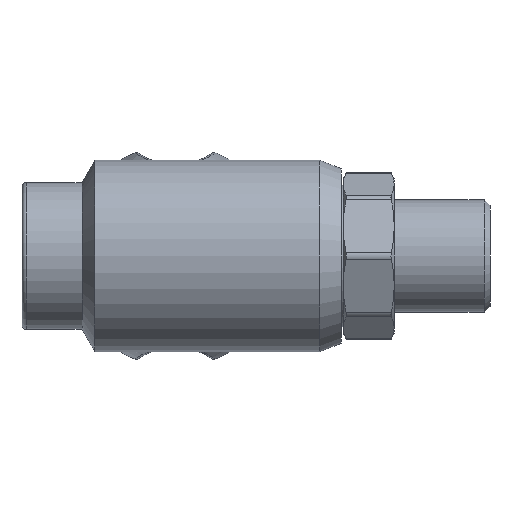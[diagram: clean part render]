
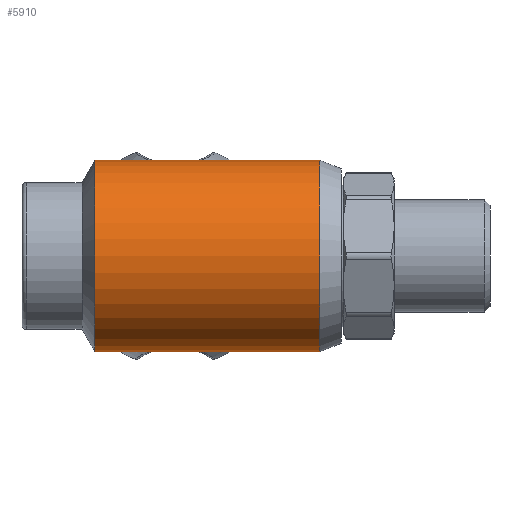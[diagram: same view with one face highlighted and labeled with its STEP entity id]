
A CAD part, front view. The second image highlights one B-rep face of the part: STEP entity #5910.
In plain terms, the highlighted cylindrical face has radius 22.5 mm (diameter 45 mm), a full revolution.
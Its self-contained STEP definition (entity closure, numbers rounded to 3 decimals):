
#172=B_SPLINE_CURVE_WITH_KNOTS('',3,(#11476,#11477,#11478,#11479,#11480,
#11481,#11482,#11483,#11484,#11485,#11486,#11487,#11488,#11489,#11490,#11491,
#11492,#11493),.UNSPECIFIED.,.F.,.F.,(4,2,2,2,2,2,2,2,4),(0.,0.349,
0.699,1.048,1.397,1.738,2.08,
2.421,2.762),.UNSPECIFIED.);
#173=B_SPLINE_CURVE_WITH_KNOTS('',3,(#11495,#11496,#11497,#11498,#11499,
#11500,#11501,#11502,#11503,#11504,#11505,#11506,#11507,#11508,#11509,#11510,
#11511,#11512),.UNSPECIFIED.,.F.,.F.,(4,2,2,2,2,2,2,2,4),(8.285,
8.626,8.967,9.308,9.649,9.998,
10.347,10.697,11.046),.UNSPECIFIED.);
#174=B_SPLINE_CURVE_WITH_KNOTS('',3,(#11513,#11514,#11515,#11516,#11517,
#11518,#11519,#11520,#11521,#11522,#11523,#11524,#11525,#11526,#11527,#11528,
#11529,#11530,#11531,#11532,#11533,#11534,#11535,#11536,#11537,#11538,#11539,
#11540,#11541,#11542,#11543,#11544,#11545,#11546),.UNSPECIFIED.,.F.,.F.,
(4,2,2,2,2,2,2,2,2,2,2,2,2,2,2,2,4),(2.762,3.103,3.444,
3.785,4.126,4.475,4.824,5.174,
5.523,5.872,6.222,6.571,6.921,
7.262,7.603,7.944,8.285),
 .UNSPECIFIED.);
#725=LINE('',#11801,#1198);
#726=LINE('',#11803,#1199);
#1198=VECTOR('',#7948,22.5);
#1199=VECTOR('',#7949,22.5);
#1264=CYLINDRICAL_SURFACE('',#6446,22.5);
#1585=FACE_OUTER_BOUND('',#1948,.T.);
#1948=EDGE_LOOP('',(#5287,#5288,#5289,#5290,#5291,#5292,#5293,#5294,#5295,
#5296,#5297));
#2191=CIRCLE('',#6444,22.5);
#2192=CIRCLE('',#6445,22.5);
#2193=CIRCLE('',#6447,22.5);
#2194=CIRCLE('',#6448,22.5);
#2721=VERTEX_POINT('',#11473);
#2722=VERTEX_POINT('',#11475);
#2723=VERTEX_POINT('',#11494);
#2783=VERTEX_POINT('',#11795);
#2784=VERTEX_POINT('',#11797);
#2785=VERTEX_POINT('',#11802);
#2786=VERTEX_POINT('',#11804);
#3543=EDGE_CURVE('',#2722,#2721,#172,.T.);
#3544=EDGE_CURVE('',#2723,#2722,#173,.T.);
#3545=EDGE_CURVE('',#2721,#2723,#174,.T.);
#3633=EDGE_CURVE('',#2783,#2784,#2191,.T.);
#3634=EDGE_CURVE('',#2784,#2783,#2192,.T.);
#3635=EDGE_CURVE('',#2783,#2723,#725,.T.);
#3636=EDGE_CURVE('',#2721,#2785,#726,.T.);
#3637=EDGE_CURVE('',#2785,#2786,#2193,.T.);
#3638=EDGE_CURVE('',#2786,#2785,#2194,.T.);
#5287=ORIENTED_EDGE('',*,*,#3634,.F.);
#5288=ORIENTED_EDGE('',*,*,#3633,.F.);
#5289=ORIENTED_EDGE('',*,*,#3635,.T.);
#5290=ORIENTED_EDGE('',*,*,#3544,.T.);
#5291=ORIENTED_EDGE('',*,*,#3543,.T.);
#5292=ORIENTED_EDGE('',*,*,#3636,.T.);
#5293=ORIENTED_EDGE('',*,*,#3637,.T.);
#5294=ORIENTED_EDGE('',*,*,#3638,.T.);
#5295=ORIENTED_EDGE('',*,*,#3636,.F.);
#5296=ORIENTED_EDGE('',*,*,#3545,.T.);
#5297=ORIENTED_EDGE('',*,*,#3635,.F.);
#5910=ADVANCED_FACE('',(#1585),#1264,.T.);
#6444=AXIS2_PLACEMENT_3D('',#11798,#7942,#7943);
#6445=AXIS2_PLACEMENT_3D('',#11799,#7944,#7945);
#6446=AXIS2_PLACEMENT_3D('',#11800,#7946,#7947);
#6447=AXIS2_PLACEMENT_3D('',#11805,#7950,#7951);
#6448=AXIS2_PLACEMENT_3D('',#11806,#7952,#7953);
#7942=DIRECTION('center_axis',(-1.,0.,0.));
#7943=DIRECTION('ref_axis',(0.,0.,1.));
#7944=DIRECTION('center_axis',(-1.,0.,0.));
#7945=DIRECTION('ref_axis',(0.,0.,1.));
#7946=DIRECTION('center_axis',(-1.,0.,0.));
#7947=DIRECTION('ref_axis',(0.,-1.,0.));
#7948=DIRECTION('',(1.,0.,0.));
#7949=DIRECTION('',(1.,0.,0.));
#7950=DIRECTION('center_axis',(-1.,0.,0.));
#7951=DIRECTION('ref_axis',(0.,0.,1.));
#7952=DIRECTION('center_axis',(-1.,0.,0.));
#7953=DIRECTION('ref_axis',(0.,0.,1.));
#11473=CARTESIAN_POINT('',(17.25,22.5,0.));
#11475=CARTESIAN_POINT('',(0.,14.446,-17.25));
#11476=CARTESIAN_POINT('Ctrl Pts',(0.,14.446,
-17.25));
#11477=CARTESIAN_POINT('Ctrl Pts',(1.165,14.446,-17.25));
#11478=CARTESIAN_POINT('Ctrl Pts',(2.329,14.591,-17.131));
#11479=CARTESIAN_POINT('Ctrl Pts',(4.594,15.119,-16.667));
#11480=CARTESIAN_POINT('Ctrl Pts',(5.695,15.499,-16.322));
#11481=CARTESIAN_POINT('Ctrl Pts',(7.784,16.382,-15.436));
#11482=CARTESIAN_POINT('Ctrl Pts',(8.775,16.885,-14.893));
#11483=CARTESIAN_POINT('Ctrl Pts',(10.607,17.906,-13.649));
#11484=CARTESIAN_POINT('Ctrl Pts',(11.448,18.424,-12.947));
#11485=CARTESIAN_POINT('Ctrl Pts',(12.929,19.379,-11.466));
#11486=CARTESIAN_POINT('Ctrl Pts',(13.627,19.854,-10.635));
#11487=CARTESIAN_POINT('Ctrl Pts',(14.875,20.731,-8.804));
#11488=CARTESIAN_POINT('Ctrl Pts',(15.426,21.132,-7.804));
#11489=CARTESIAN_POINT('Ctrl Pts',(16.325,21.797,-5.69));
#11490=CARTESIAN_POINT('Ctrl Pts',(16.673,22.06,-4.573));
#11491=CARTESIAN_POINT('Ctrl Pts',(17.136,22.412,-2.297));
#11492=CARTESIAN_POINT('Ctrl Pts',(17.25,22.5,-1.137));
#11493=CARTESIAN_POINT('Ctrl Pts',(17.25,22.5,0.));
#11494=CARTESIAN_POINT('',(-17.25,22.5,0.));
#11495=CARTESIAN_POINT('Ctrl Pts',(-17.25,22.5,0.));
#11496=CARTESIAN_POINT('Ctrl Pts',(-17.25,22.5,-1.137));
#11497=CARTESIAN_POINT('Ctrl Pts',(-17.136,22.412,-2.297));
#11498=CARTESIAN_POINT('Ctrl Pts',(-16.673,22.06,-4.573));
#11499=CARTESIAN_POINT('Ctrl Pts',(-16.325,21.797,-5.69));
#11500=CARTESIAN_POINT('Ctrl Pts',(-15.426,21.132,-7.804));
#11501=CARTESIAN_POINT('Ctrl Pts',(-14.875,20.731,-8.804));
#11502=CARTESIAN_POINT('Ctrl Pts',(-13.627,19.854,-10.635));
#11503=CARTESIAN_POINT('Ctrl Pts',(-12.929,19.379,-11.466));
#11504=CARTESIAN_POINT('Ctrl Pts',(-11.448,18.424,-12.947));
#11505=CARTESIAN_POINT('Ctrl Pts',(-10.607,17.906,-13.649));
#11506=CARTESIAN_POINT('Ctrl Pts',(-8.775,16.885,-14.893));
#11507=CARTESIAN_POINT('Ctrl Pts',(-7.784,16.382,-15.436));
#11508=CARTESIAN_POINT('Ctrl Pts',(-5.695,15.499,-16.322));
#11509=CARTESIAN_POINT('Ctrl Pts',(-4.594,15.119,-16.667));
#11510=CARTESIAN_POINT('Ctrl Pts',(-2.329,14.591,-17.131));
#11511=CARTESIAN_POINT('Ctrl Pts',(-1.165,14.446,-17.25));
#11512=CARTESIAN_POINT('Ctrl Pts',(0.,14.446,
-17.25));
#11513=CARTESIAN_POINT('Ctrl Pts',(17.25,22.5,0.));
#11514=CARTESIAN_POINT('Ctrl Pts',(17.25,22.5,1.137));
#11515=CARTESIAN_POINT('Ctrl Pts',(17.136,22.412,2.297));
#11516=CARTESIAN_POINT('Ctrl Pts',(16.673,22.06,4.573));
#11517=CARTESIAN_POINT('Ctrl Pts',(16.325,21.797,5.69));
#11518=CARTESIAN_POINT('Ctrl Pts',(15.426,21.132,7.804));
#11519=CARTESIAN_POINT('Ctrl Pts',(14.875,20.731,8.804));
#11520=CARTESIAN_POINT('Ctrl Pts',(13.627,19.854,10.635));
#11521=CARTESIAN_POINT('Ctrl Pts',(12.929,19.379,11.466));
#11522=CARTESIAN_POINT('Ctrl Pts',(11.448,18.424,12.947));
#11523=CARTESIAN_POINT('Ctrl Pts',(10.607,17.906,13.649));
#11524=CARTESIAN_POINT('Ctrl Pts',(8.775,16.885,14.893));
#11525=CARTESIAN_POINT('Ctrl Pts',(7.784,16.382,15.436));
#11526=CARTESIAN_POINT('Ctrl Pts',(5.695,15.499,16.322));
#11527=CARTESIAN_POINT('Ctrl Pts',(4.594,15.119,16.667));
#11528=CARTESIAN_POINT('Ctrl Pts',(2.329,14.591,17.131));
#11529=CARTESIAN_POINT('Ctrl Pts',(1.165,14.446,17.25));
#11530=CARTESIAN_POINT('Ctrl Pts',(-1.165,14.446,17.25));
#11531=CARTESIAN_POINT('Ctrl Pts',(-2.329,14.591,17.131));
#11532=CARTESIAN_POINT('Ctrl Pts',(-4.594,15.119,16.667));
#11533=CARTESIAN_POINT('Ctrl Pts',(-5.695,15.499,16.322));
#11534=CARTESIAN_POINT('Ctrl Pts',(-7.784,16.382,15.436));
#11535=CARTESIAN_POINT('Ctrl Pts',(-8.775,16.885,14.893));
#11536=CARTESIAN_POINT('Ctrl Pts',(-10.607,17.906,13.649));
#11537=CARTESIAN_POINT('Ctrl Pts',(-11.448,18.424,12.947));
#11538=CARTESIAN_POINT('Ctrl Pts',(-12.929,19.379,11.466));
#11539=CARTESIAN_POINT('Ctrl Pts',(-13.627,19.854,10.635));
#11540=CARTESIAN_POINT('Ctrl Pts',(-14.875,20.731,8.804));
#11541=CARTESIAN_POINT('Ctrl Pts',(-15.426,21.132,7.804));
#11542=CARTESIAN_POINT('Ctrl Pts',(-16.325,21.797,5.69));
#11543=CARTESIAN_POINT('Ctrl Pts',(-16.673,22.06,4.573));
#11544=CARTESIAN_POINT('Ctrl Pts',(-17.136,22.412,2.297));
#11545=CARTESIAN_POINT('Ctrl Pts',(-17.25,22.5,1.137));
#11546=CARTESIAN_POINT('Ctrl Pts',(-17.25,22.5,0.));
#11795=CARTESIAN_POINT('',(-18.844,22.5,0.));
#11797=CARTESIAN_POINT('',(-18.844,-22.5,0.));
#11798=CARTESIAN_POINT('Origin',(-18.844,0.,0.));
#11799=CARTESIAN_POINT('Origin',(-18.844,0.,0.));
#11800=CARTESIAN_POINT('Origin',(7.578,0.,0.));
#11801=CARTESIAN_POINT('',(7.578,22.5,0.));
#11802=CARTESIAN_POINT('',(34.,22.5,0.));
#11803=CARTESIAN_POINT('',(7.578,22.5,0.));
#11804=CARTESIAN_POINT('',(34.,-22.5,0.));
#11805=CARTESIAN_POINT('Origin',(34.,0.,0.));
#11806=CARTESIAN_POINT('Origin',(34.,0.,0.));
